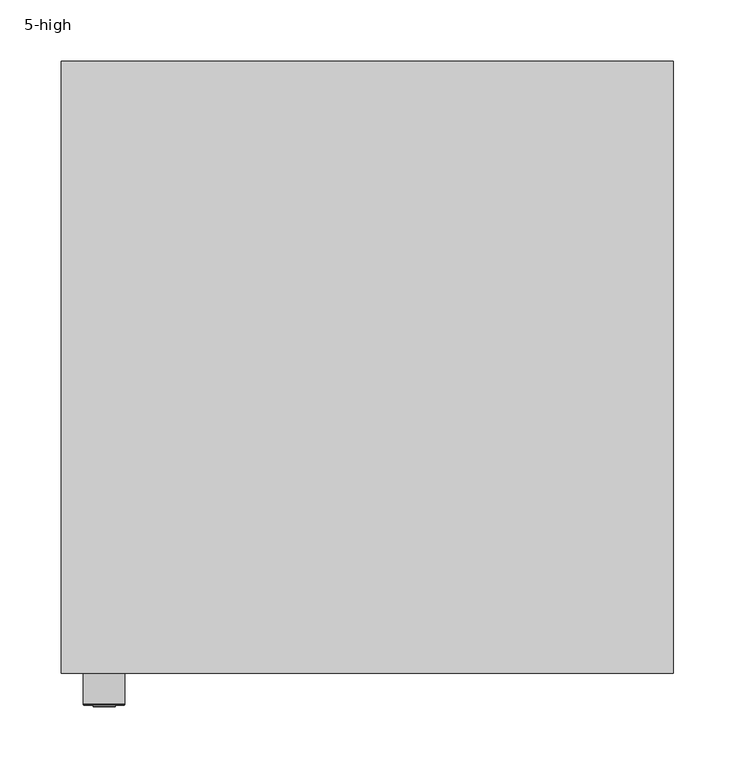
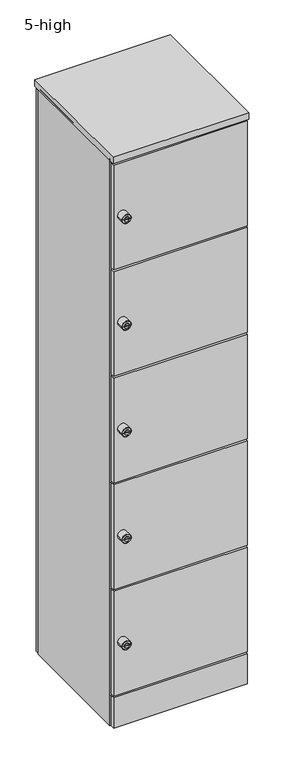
"""IFC4 building model written with IfcOpenShell, lengths in millimetres: furniture geometry, Furniture_Storage_Spacestor_SignatureHotLocker : 5-high."""

from ifc_helpers import new_model, si_unit, point, frame, origin, origin_with_axes, place, context, project, spatial, polyline, circle_curve, ellipse_curve, trimmed, outline, extrude, source, transform, mapped, element, save
from ifc_brep_helpers import plane_surface, cylinder_surface, revolved_surface, advanced_brep


def furniture_5_high_cc2030e8(model_context):
    return source(origin(), model_context, "Body", "SolidModel", [
        extrude(outline(polyline([(489.0, 0.0), (11.0, 0.0), (11.0, 459.0), (489.0, 459.0), (489.0, 0.0)])), frame((0.0, 0.0, 2190.5), z_axis=(0.0, 0.0, 1.0), x_axis=(1.0, 0.0, 0.0)), (0.0, 0.0, 1.0), 22.0),
        extrude(outline(polyline([(489.0, 0.0), (11.0, 0.0), (11.0, 459.0), (489.0, 459.0), (489.0, 0.0)])), frame((0.0, 0.0, 1774.5), z_axis=(0.0, 0.0, 1.0), x_axis=(1.0, 0.0, 0.0)), (0.0, 0.0, 1.0), 22.0),
        extrude(outline(polyline([(489.0, 0.0), (11.0, 0.0), (11.0, 459.0), (489.0, 459.0), (489.0, 0.0)])), frame((0.0, 0.0, 1358.5), z_axis=(0.0, 0.0, 1.0), x_axis=(1.0, 0.0, 0.0)), (0.0, 0.0, 1.0), 22.0),
        extrude(outline(polyline([(489.0, 0.0), (11.0, 0.0), (11.0, 459.0), (489.0, 459.0), (489.0, 0.0)])), frame((0.0, 0.0, 942.5), z_axis=(0.0, 0.0, 1.0), x_axis=(1.0, 0.0, 0.0)), (0.0, 0.0, 1.0), 22.0),
        extrude(outline(polyline([(489.0, 0.0), (11.0, 0.0), (11.0, 459.0), (489.0, 459.0), (489.0, 0.0)])), frame((0.0, 0.0, 526.5), z_axis=(0.0, 0.0, 1.0), x_axis=(1.0, 0.0, 0.0)), (0.0, 0.0, 1.0), 22.0),
        advanced_brep(
        [(18.0, -45.3116344, 1993.5), (52.0, -45.3116344, 1993.5), (52.0, -18.0, 1993.5), (18.0, -18.0, 1993.5), (35.0, -18.0, 1993.5), (26.0252681, -46.3150077, 1993.5), (43.9747319, -46.3150077, 1993.5), (50.9966266, -46.3150077, 1993.5), (19.0033734, -46.3150077, 1993.5), (26.0252681, -47.4703043, 1993.5), (43.9747319, -47.4703043, 1993.5), (30.1754848, -47.4703043, 1993.5), (30.1754848, -47.4703043, 1994.8633438), (39.8245152, -47.4703043, 1994.8633438), (39.8245152, -47.4703043, 1993.5), (39.8245152, -47.4703043, 1992.1366562), (30.1754848, -47.4703043, 1992.1366562), (39.8245152, -27.8604291, 1994.8633438), (30.1754848, -27.8604291, 1994.8633438), (30.1754848, -27.8604291, 1992.1366562), (39.8245152, -27.8604291, 1992.1366562)],
        [
            (0, 1, circle_curve(frame((35.0, -45.3116344, 1993.5), z_axis=(0.0, 1.0, 0.0), x_axis=(1.0, 0.0, 0.0)), 17.0)),
            (1, 2),
            (2, 3, circle_curve(frame((35.0, -18.0, 1993.5), z_axis=(0.0, -1.0, 0.0), x_axis=(1.0, 0.0, 0.0)), 17.0)),
            (3, 0),
            (1, 0, circle_curve(frame((35.0, -45.3116344, 1993.5), z_axis=(0.0, 1.0, 0.0), x_axis=(1.0, 0.0, 0.0)), 17.0)),
            (3, 2, circle_curve(frame((35.0, -18.0, 1993.5), z_axis=(0.0, -1.0, 0.0), x_axis=(1.0, 0.0, 0.0)), 17.0)),
            (2, 4),
            (4, 3),
            (5, 6, circle_curve(frame((35.0, -46.3150077, 1993.5), z_axis=(0.0, 1.0, 0.0), x_axis=(1.0, 0.0, 0.0)), 8.9747319)),
            (6, 7),
            (7, 8, circle_curve(frame((35.0, -46.3150077, 1993.5), z_axis=(0.0, -1.0, 0.0), x_axis=(1.0, 0.0, 0.0)), 15.9966266)),
            (8, 5),
            (6, 5, circle_curve(frame((35.0, -46.3150077, 1993.5), z_axis=(0.0, 1.0, 0.0), x_axis=(1.0, 0.0, 0.0)), 8.9747319)),
            (8, 7, circle_curve(frame((35.0, -46.3150077, 1993.5), z_axis=(0.0, -1.0, 0.0), x_axis=(1.0, 0.0, 0.0)), 15.9966266)),
            (0, 8, circle_curve(frame((19.0033734, -45.3116344, 1993.5), z_axis=(0.0, 0.0, 1.0), x_axis=(-1.0, 0.0, 0.0)), 1.0033734)),
            (7, 1, circle_curve(frame((50.9966266, -45.3116344, 1993.5), z_axis=(0.0, 0.0, 1.0), x_axis=(1.0, 0.0, 0.0)), 1.0033734)),
            (5, 9),
            (9, 10, circle_curve(frame((35.0, -47.4703043, 1993.5), z_axis=(0.0, 1.0, 0.0), x_axis=(1.0, 0.0, 0.0)), 8.9747319)),
            (10, 6),
            (10, 9, circle_curve(frame((35.0, -47.4703043, 1993.5), z_axis=(0.0, 1.0, 0.0), x_axis=(1.0, 0.0, 0.0)), 8.9747319)),
            (9, 11),
            (11, 12),
            (12, 13),
            (13, 14),
            (14, 10),
            (14, 15),
            (15, 16),
            (16, 11),
            (17, 18),
            (18, 19),
            (19, 20),
            (20, 17),
            (17, 13),
            (12, 18),
            (16, 19),
            (15, 20),
        ],
        [
            cylinder_surface(frame((35.0, -2627.0581012, 1993.5), z_axis=(0.0, -1.0, 0.0), x_axis=(1.0, 0.0, 0.0)), 17.0),
            plane_surface(frame((35.0, -18.0, 1993.5), z_axis=(0.0, 1.0, 0.0), x_axis=(1.0, 0.0, 0.0))),
            plane_surface(frame((35.0, -46.3150077, 1993.5), z_axis=(0.0, -1.0, 0.0), x_axis=(1.0, 0.0, 0.0))),
            revolved_surface(trimmed(ellipse_curve(frame((50.9966266, -45.3116344, 1993.5), z_axis=(0.0, 0.0, -1.0), x_axis=(1.0, 0.0, 0.0)), 1.0033734, 1.0033734), [point((52.0, -45.3116344, 1993.5))], [point((50.9966266, -46.3150077, 1993.5))], True, "CARTESIAN"), (35.0, -2627.0581012, 1993.5), (0.0, -1.0, 0.0)),
            cylinder_surface(frame((35.0, -2627.0581012, 1993.5), z_axis=(0.0, -1.0, 0.0), x_axis=(1.0, 0.0, 0.0)), 8.9747319),
            plane_surface(frame((35.0, -47.4703043, 1993.5), z_axis=(0.0, -1.0, 0.0), x_axis=(1.0, 0.0, 0.0))),
            plane_surface(frame((30.5434751, -27.8604291, 1994.8633438), z_axis=(0.0, -1.0, 0.0), x_axis=(1.0, 0.0, 0.0))),
            plane_surface(frame((39.8245152, -49.2046383, 1994.8633438), z_axis=(0.0, 0.0, -1.0), x_axis=(0.0, 1.0, 0.0))),
            plane_surface(frame((30.1754848, -49.2046383, 1994.8633438), z_axis=(1.0, 0.0, 0.0), x_axis=(0.0, 1.0, 0.0))),
            plane_surface(frame((30.1754848, -49.2046383, 1992.1366562), z_axis=(0.0, 0.0, 1.0), x_axis=(0.0, 1.0, 0.0))),
            plane_surface(frame((39.8245152, -49.2046383, 1992.1366562), z_axis=(-1.0, 0.0, 0.0), x_axis=(0.0, 1.0, 0.0))),
        ],
        [
            (0, [[1, 2, 3, 4]]),
            (0, [[-2, 5, -4, 6]]),
            (1, [[-3, 7, 8]]),
            (1, [[-6, -8, -7]]),
            (2, [[9, 10, 11, 12]]),
            (2, [[-10, 13, -12, 14]]),
            (3, [[-1, 15, -11, 16]]),
            (3, [[-5, -16, -14, -15]]),
            (4, [[-9, 17, 18, 19]]),
            (4, [[-13, -19, 20, -17]]),
            (5, [[-18, 21, 22, 23, 24, 25]]),
            (5, [[-20, -25, 26, 27, 28, -21]]),
            (6, [[29, 30, 31, 32]]),
            (7, [[-29, 33, -23, 34]]),
            (8, [[-30, -34, -22, -28, 35]]),
            (9, [[-31, -35, -27, 36]]),
            (10, [[-32, -36, -26, -24, -33]]),
        ],
    ),
        advanced_brep(
        [(18.0, -45.3116344, 1577.5), (52.0, -45.3116344, 1577.5), (52.0, -18.0, 1577.5), (18.0, -18.0, 1577.5), (35.0, -18.0, 1577.5), (26.0252681, -46.3150077, 1577.5), (43.9747319, -46.3150077, 1577.5), (50.9966266, -46.3150077, 1577.5), (19.0033734, -46.3150077, 1577.5), (26.0252681, -47.4703043, 1577.5), (43.9747319, -47.4703043, 1577.5), (30.1754848, -47.4703043, 1577.5), (30.1754848, -47.4703043, 1578.8633438), (39.8245152, -47.4703043, 1578.8633438), (39.8245152, -47.4703043, 1577.5), (39.8245152, -47.4703043, 1576.1366562), (30.1754848, -47.4703043, 1576.1366562), (39.8245152, -27.8604291, 1578.8633438), (30.1754848, -27.8604291, 1578.8633438), (30.1754848, -27.8604291, 1576.1366562), (39.8245152, -27.8604291, 1576.1366562)],
        [
            (0, 1, circle_curve(frame((35.0, -45.3116344, 1577.5), z_axis=(0.0, 1.0, 0.0), x_axis=(1.0, 0.0, 0.0)), 17.0)),
            (1, 2),
            (2, 3, circle_curve(frame((35.0, -18.0, 1577.5), z_axis=(0.0, -1.0, 0.0), x_axis=(1.0, 0.0, 0.0)), 17.0)),
            (3, 0),
            (1, 0, circle_curve(frame((35.0, -45.3116344, 1577.5), z_axis=(0.0, 1.0, 0.0), x_axis=(1.0, 0.0, 0.0)), 17.0)),
            (3, 2, circle_curve(frame((35.0, -18.0, 1577.5), z_axis=(0.0, -1.0, 0.0), x_axis=(1.0, 0.0, 0.0)), 17.0)),
            (2, 4),
            (4, 3),
            (5, 6, circle_curve(frame((35.0, -46.3150077, 1577.5), z_axis=(0.0, 1.0, 0.0), x_axis=(1.0, 0.0, 0.0)), 8.9747319)),
            (6, 7),
            (7, 8, circle_curve(frame((35.0, -46.3150077, 1577.5), z_axis=(0.0, -1.0, 0.0), x_axis=(1.0, 0.0, 0.0)), 15.9966266)),
            (8, 5),
            (6, 5, circle_curve(frame((35.0, -46.3150077, 1577.5), z_axis=(0.0, 1.0, 0.0), x_axis=(1.0, 0.0, 0.0)), 8.9747319)),
            (8, 7, circle_curve(frame((35.0, -46.3150077, 1577.5), z_axis=(0.0, -1.0, 0.0), x_axis=(1.0, 0.0, 0.0)), 15.9966266)),
            (0, 8, circle_curve(frame((19.0033734, -45.3116344, 1577.5), z_axis=(0.0, 0.0, 1.0), x_axis=(-1.0, 0.0, 0.0)), 1.0033734)),
            (7, 1, circle_curve(frame((50.9966266, -45.3116344, 1577.5), z_axis=(0.0, 0.0, 1.0), x_axis=(1.0, 0.0, 0.0)), 1.0033734)),
            (5, 9),
            (9, 10, circle_curve(frame((35.0, -47.4703043, 1577.5), z_axis=(0.0, 1.0, 0.0), x_axis=(1.0, 0.0, 0.0)), 8.9747319)),
            (10, 6),
            (10, 9, circle_curve(frame((35.0, -47.4703043, 1577.5), z_axis=(0.0, 1.0, 0.0), x_axis=(1.0, 0.0, 0.0)), 8.9747319)),
            (9, 11),
            (11, 12),
            (12, 13),
            (13, 14),
            (14, 10),
            (14, 15),
            (15, 16),
            (16, 11),
            (17, 18),
            (18, 19),
            (19, 20),
            (20, 17),
            (17, 13),
            (12, 18),
            (16, 19),
            (15, 20),
        ],
        [
            cylinder_surface(frame((35.0, -2627.0581012, 1577.5), z_axis=(0.0, -1.0, 0.0), x_axis=(1.0, 0.0, 0.0)), 17.0),
            plane_surface(frame((35.0, -18.0, 1577.5), z_axis=(0.0, 1.0, 0.0), x_axis=(1.0, 0.0, 0.0))),
            plane_surface(frame((35.0, -46.3150077, 1577.5), z_axis=(0.0, -1.0, 0.0), x_axis=(1.0, 0.0, 0.0))),
            revolved_surface(trimmed(ellipse_curve(frame((50.9966266, -45.3116344, 1577.5), z_axis=(0.0, 0.0, -1.0), x_axis=(1.0, 0.0, 0.0)), 1.0033734, 1.0033734), [point((52.0, -45.3116344, 1577.5))], [point((50.9966266, -46.3150077, 1577.5))], True, "CARTESIAN"), (35.0, -2627.0581012, 1577.5), (0.0, -1.0, 0.0)),
            cylinder_surface(frame((35.0, -2627.0581012, 1577.5), z_axis=(0.0, -1.0, 0.0), x_axis=(1.0, 0.0, 0.0)), 8.9747319),
            plane_surface(frame((35.0, -47.4703043, 1577.5), z_axis=(0.0, -1.0, 0.0), x_axis=(1.0, 0.0, 0.0))),
            plane_surface(frame((30.5434751, -27.8604291, 1578.8633438), z_axis=(0.0, -1.0, 0.0), x_axis=(1.0, 0.0, 0.0))),
            plane_surface(frame((39.8245152, -49.2046383, 1578.8633438), z_axis=(0.0, 0.0, -1.0), x_axis=(0.0, 1.0, 0.0))),
            plane_surface(frame((30.1754848, -49.2046383, 1578.8633438), z_axis=(1.0, 0.0, 0.0), x_axis=(0.0, 1.0, 0.0))),
            plane_surface(frame((30.1754848, -49.2046383, 1576.1366562), z_axis=(0.0, 0.0, 1.0), x_axis=(0.0, 1.0, 0.0))),
            plane_surface(frame((39.8245152, -49.2046383, 1576.1366562), z_axis=(-1.0, 0.0, 0.0), x_axis=(0.0, 1.0, 0.0))),
        ],
        [
            (0, [[1, 2, 3, 4]]),
            (0, [[-2, 5, -4, 6]]),
            (1, [[-3, 7, 8]]),
            (1, [[-6, -8, -7]]),
            (2, [[9, 10, 11, 12]]),
            (2, [[-10, 13, -12, 14]]),
            (3, [[-1, 15, -11, 16]]),
            (3, [[-5, -16, -14, -15]]),
            (4, [[-9, 17, 18, 19]]),
            (4, [[-13, -19, 20, -17]]),
            (5, [[-18, 21, 22, 23, 24, 25]]),
            (5, [[-20, -25, 26, 27, 28, -21]]),
            (6, [[29, 30, 31, 32]]),
            (7, [[-29, 33, -23, 34]]),
            (8, [[-30, -34, -22, -28, 35]]),
            (9, [[-31, -35, -27, 36]]),
            (10, [[-32, -36, -26, -24, -33]]),
        ],
    ),
        advanced_brep(
        [(18.0, -45.3116344, 1161.5), (52.0, -45.3116344, 1161.5), (52.0, -18.0, 1161.5), (18.0, -18.0, 1161.5), (35.0, -18.0, 1161.5), (26.0252681, -46.3150077, 1161.5), (43.9747319, -46.3150077, 1161.5), (50.9966266, -46.3150077, 1161.5), (19.0033734, -46.3150077, 1161.5), (26.0252681, -47.4703043, 1161.5), (43.9747319, -47.4703043, 1161.5), (30.1754848, -47.4703043, 1161.5), (30.1754848, -47.4703043, 1162.8633438), (39.8245152, -47.4703043, 1162.8633438), (39.8245152, -47.4703043, 1161.5), (39.8245152, -47.4703043, 1160.1366562), (30.1754848, -47.4703043, 1160.1366562), (39.8245152, -27.8604291, 1162.8633438), (30.1754848, -27.8604291, 1162.8633438), (30.1754848, -27.8604291, 1160.1366562), (39.8245152, -27.8604291, 1160.1366562)],
        [
            (0, 1, circle_curve(frame((35.0, -45.3116344, 1161.5), z_axis=(0.0, 1.0, 0.0), x_axis=(1.0, 0.0, 0.0)), 17.0)),
            (1, 2),
            (2, 3, circle_curve(frame((35.0, -18.0, 1161.5), z_axis=(0.0, -1.0, 0.0), x_axis=(1.0, 0.0, 0.0)), 17.0)),
            (3, 0),
            (1, 0, circle_curve(frame((35.0, -45.3116344, 1161.5), z_axis=(0.0, 1.0, 0.0), x_axis=(1.0, 0.0, 0.0)), 17.0)),
            (3, 2, circle_curve(frame((35.0, -18.0, 1161.5), z_axis=(0.0, -1.0, 0.0), x_axis=(1.0, 0.0, 0.0)), 17.0)),
            (2, 4),
            (4, 3),
            (5, 6, circle_curve(frame((35.0, -46.3150077, 1161.5), z_axis=(0.0, 1.0, 0.0), x_axis=(1.0, 0.0, 0.0)), 8.9747319)),
            (6, 7),
            (7, 8, circle_curve(frame((35.0, -46.3150077, 1161.5), z_axis=(0.0, -1.0, 0.0), x_axis=(1.0, 0.0, 0.0)), 15.9966266)),
            (8, 5),
            (6, 5, circle_curve(frame((35.0, -46.3150077, 1161.5), z_axis=(0.0, 1.0, 0.0), x_axis=(1.0, 0.0, 0.0)), 8.9747319)),
            (8, 7, circle_curve(frame((35.0, -46.3150077, 1161.5), z_axis=(0.0, -1.0, 0.0), x_axis=(1.0, 0.0, 0.0)), 15.9966266)),
            (0, 8, circle_curve(frame((19.0033734, -45.3116344, 1161.5), z_axis=(0.0, 0.0, 1.0), x_axis=(-1.0, 0.0, 0.0)), 1.0033734)),
            (7, 1, circle_curve(frame((50.9966266, -45.3116344, 1161.5), z_axis=(0.0, 0.0, 1.0), x_axis=(1.0, 0.0, 0.0)), 1.0033734)),
            (5, 9),
            (9, 10, circle_curve(frame((35.0, -47.4703043, 1161.5), z_axis=(0.0, 1.0, 0.0), x_axis=(1.0, 0.0, 0.0)), 8.9747319)),
            (10, 6),
            (10, 9, circle_curve(frame((35.0, -47.4703043, 1161.5), z_axis=(0.0, 1.0, 0.0), x_axis=(1.0, 0.0, 0.0)), 8.9747319)),
            (9, 11),
            (11, 12),
            (12, 13),
            (13, 14),
            (14, 10),
            (14, 15),
            (15, 16),
            (16, 11),
            (17, 18),
            (18, 19),
            (19, 20),
            (20, 17),
            (17, 13),
            (12, 18),
            (16, 19),
            (15, 20),
        ],
        [
            cylinder_surface(frame((35.0, -2627.0581012, 1161.5), z_axis=(0.0, -1.0, 0.0), x_axis=(1.0, 0.0, 0.0)), 17.0),
            plane_surface(frame((35.0, -18.0, 1161.5), z_axis=(0.0, 1.0, 0.0), x_axis=(1.0, 0.0, 0.0))),
            plane_surface(frame((35.0, -46.3150077, 1161.5), z_axis=(0.0, -1.0, 0.0), x_axis=(1.0, 0.0, 0.0))),
            revolved_surface(trimmed(ellipse_curve(frame((50.9966266, -45.3116344, 1161.5), z_axis=(0.0, 0.0, -1.0), x_axis=(1.0, 0.0, 0.0)), 1.0033734, 1.0033734), [point((52.0, -45.3116344, 1161.5))], [point((50.9966266, -46.3150077, 1161.5))], True, "CARTESIAN"), (35.0, -2627.0581012, 1161.5), (0.0, -1.0, 0.0)),
            cylinder_surface(frame((35.0, -2627.0581012, 1161.5), z_axis=(0.0, -1.0, 0.0), x_axis=(1.0, 0.0, 0.0)), 8.9747319),
            plane_surface(frame((35.0, -47.4703043, 1161.5), z_axis=(0.0, -1.0, 0.0), x_axis=(1.0, 0.0, 0.0))),
            plane_surface(frame((30.5434751, -27.8604291, 1162.8633438), z_axis=(0.0, -1.0, 0.0), x_axis=(1.0, 0.0, 0.0))),
            plane_surface(frame((39.8245152, -49.2046383, 1162.8633438), z_axis=(0.0, 0.0, -1.0), x_axis=(0.0, 1.0, 0.0))),
            plane_surface(frame((30.1754848, -49.2046383, 1162.8633438), z_axis=(1.0, 0.0, 0.0), x_axis=(0.0, 1.0, 0.0))),
            plane_surface(frame((30.1754848, -49.2046383, 1160.1366562), z_axis=(0.0, 0.0, 1.0), x_axis=(0.0, 1.0, 0.0))),
            plane_surface(frame((39.8245152, -49.2046383, 1160.1366562), z_axis=(-1.0, 0.0, 0.0), x_axis=(0.0, 1.0, 0.0))),
        ],
        [
            (0, [[1, 2, 3, 4]]),
            (0, [[-2, 5, -4, 6]]),
            (1, [[-3, 7, 8]]),
            (1, [[-6, -8, -7]]),
            (2, [[9, 10, 11, 12]]),
            (2, [[-10, 13, -12, 14]]),
            (3, [[-1, 15, -11, 16]]),
            (3, [[-5, -16, -14, -15]]),
            (4, [[-9, 17, 18, 19]]),
            (4, [[-13, -19, 20, -17]]),
            (5, [[-18, 21, 22, 23, 24, 25]]),
            (5, [[-20, -25, 26, 27, 28, -21]]),
            (6, [[29, 30, 31, 32]]),
            (7, [[-29, 33, -23, 34]]),
            (8, [[-30, -34, -22, -28, 35]]),
            (9, [[-31, -35, -27, 36]]),
            (10, [[-32, -36, -26, -24, -33]]),
        ],
    ),
        advanced_brep(
        [(18.0, -45.3116344, 745.5), (52.0, -45.3116344, 745.5), (52.0, -18.0, 745.5), (18.0, -18.0, 745.5), (35.0, -18.0, 745.5), (26.0252681, -46.3150077, 745.5), (43.9747319, -46.3150077, 745.5), (50.9966266, -46.3150077, 745.5), (19.0033734, -46.3150077, 745.5), (26.0252681, -47.4703043, 745.5), (43.9747319, -47.4703043, 745.5), (30.1754848, -47.4703043, 745.5), (30.1754848, -47.4703043, 746.8633438), (39.8245152, -47.4703043, 746.8633438), (39.8245152, -47.4703043, 745.5), (39.8245152, -47.4703043, 744.1366562), (30.1754848, -47.4703043, 744.1366562), (39.8245152, -27.8604291, 746.8633438), (30.1754848, -27.8604291, 746.8633438), (30.1754848, -27.8604291, 744.1366562), (39.8245152, -27.8604291, 744.1366562)],
        [
            (0, 1, circle_curve(frame((35.0, -45.3116344, 745.5), z_axis=(0.0, 1.0, 0.0), x_axis=(1.0, 0.0, 0.0)), 17.0)),
            (1, 2),
            (2, 3, circle_curve(frame((35.0, -18.0, 745.5), z_axis=(0.0, -1.0, 0.0), x_axis=(1.0, 0.0, 0.0)), 17.0)),
            (3, 0),
            (1, 0, circle_curve(frame((35.0, -45.3116344, 745.5), z_axis=(0.0, 1.0, 0.0), x_axis=(1.0, 0.0, 0.0)), 17.0)),
            (3, 2, circle_curve(frame((35.0, -18.0, 745.5), z_axis=(0.0, -1.0, 0.0), x_axis=(1.0, 0.0, 0.0)), 17.0)),
            (2, 4),
            (4, 3),
            (5, 6, circle_curve(frame((35.0, -46.3150077, 745.5), z_axis=(0.0, 1.0, 0.0), x_axis=(1.0, 0.0, 0.0)), 8.9747319)),
            (6, 7),
            (7, 8, circle_curve(frame((35.0, -46.3150077, 745.5), z_axis=(0.0, -1.0, 0.0), x_axis=(1.0, 0.0, 0.0)), 15.9966266)),
            (8, 5),
            (6, 5, circle_curve(frame((35.0, -46.3150077, 745.5), z_axis=(0.0, 1.0, 0.0), x_axis=(1.0, 0.0, 0.0)), 8.9747319)),
            (8, 7, circle_curve(frame((35.0, -46.3150077, 745.5), z_axis=(0.0, -1.0, 0.0), x_axis=(1.0, 0.0, 0.0)), 15.9966266)),
            (0, 8, circle_curve(frame((19.0033734, -45.3116344, 745.5), z_axis=(0.0, 0.0, 1.0), x_axis=(-1.0, 0.0, 0.0)), 1.0033734)),
            (7, 1, circle_curve(frame((50.9966266, -45.3116344, 745.5), z_axis=(0.0, 0.0, 1.0), x_axis=(1.0, 0.0, 0.0)), 1.0033734)),
            (5, 9),
            (9, 10, circle_curve(frame((35.0, -47.4703043, 745.5), z_axis=(0.0, 1.0, 0.0), x_axis=(1.0, 0.0, 0.0)), 8.9747319)),
            (10, 6),
            (10, 9, circle_curve(frame((35.0, -47.4703043, 745.5), z_axis=(0.0, 1.0, 0.0), x_axis=(1.0, 0.0, 0.0)), 8.9747319)),
            (9, 11),
            (11, 12),
            (12, 13),
            (13, 14),
            (14, 10),
            (14, 15),
            (15, 16),
            (16, 11),
            (17, 18),
            (18, 19),
            (19, 20),
            (20, 17),
            (17, 13),
            (12, 18),
            (16, 19),
            (15, 20),
        ],
        [
            cylinder_surface(frame((35.0, -2627.0581012, 745.5), z_axis=(0.0, -1.0, 0.0), x_axis=(1.0, 0.0, 0.0)), 17.0),
            plane_surface(frame((35.0, -18.0, 745.5), z_axis=(0.0, 1.0, 0.0), x_axis=(1.0, 0.0, 0.0))),
            plane_surface(frame((35.0, -46.3150077, 745.5), z_axis=(0.0, -1.0, 0.0), x_axis=(1.0, 0.0, 0.0))),
            revolved_surface(trimmed(ellipse_curve(frame((50.9966266, -45.3116344, 745.5), z_axis=(0.0, 0.0, -1.0), x_axis=(1.0, 0.0, 0.0)), 1.0033734, 1.0033734), [point((52.0, -45.3116344, 745.5))], [point((50.9966266, -46.3150077, 745.5))], True, "CARTESIAN"), (35.0, -2627.0581012, 745.5), (0.0, -1.0, 0.0)),
            cylinder_surface(frame((35.0, -2627.0581012, 745.5), z_axis=(0.0, -1.0, 0.0), x_axis=(1.0, 0.0, 0.0)), 8.9747319),
            plane_surface(frame((35.0, -47.4703043, 745.5), z_axis=(0.0, -1.0, 0.0), x_axis=(1.0, 0.0, 0.0))),
            plane_surface(frame((30.5434751, -27.8604291, 746.8633438), z_axis=(0.0, -1.0, 0.0), x_axis=(1.0, 0.0, 0.0))),
            plane_surface(frame((39.8245152, -49.2046383, 746.8633438), z_axis=(0.0, 0.0, -1.0), x_axis=(0.0, 1.0, 0.0))),
            plane_surface(frame((30.1754848, -49.2046383, 746.8633438), z_axis=(1.0, 0.0, 0.0), x_axis=(0.0, 1.0, 0.0))),
            plane_surface(frame((30.1754848, -49.2046383, 744.1366562), z_axis=(0.0, 0.0, 1.0), x_axis=(0.0, 1.0, 0.0))),
            plane_surface(frame((39.8245152, -49.2046383, 744.1366562), z_axis=(-1.0, 0.0, 0.0), x_axis=(0.0, 1.0, 0.0))),
        ],
        [
            (0, [[1, 2, 3, 4]]),
            (0, [[-2, 5, -4, 6]]),
            (1, [[-3, 7, 8]]),
            (1, [[-6, -8, -7]]),
            (2, [[9, 10, 11, 12]]),
            (2, [[-10, 13, -12, 14]]),
            (3, [[-1, 15, -11, 16]]),
            (3, [[-5, -16, -14, -15]]),
            (4, [[-9, 17, 18, 19]]),
            (4, [[-13, -19, 20, -17]]),
            (5, [[-18, 21, 22, 23, 24, 25]]),
            (5, [[-20, -25, 26, 27, 28, -21]]),
            (6, [[29, 30, 31, 32]]),
            (7, [[-29, 33, -23, 34]]),
            (8, [[-30, -34, -22, -28, 35]]),
            (9, [[-31, -35, -27, 36]]),
            (10, [[-32, -36, -26, -24, -33]]),
        ],
    ),
        advanced_brep(
        [(18.0, -45.3116344, 329.5), (52.0, -45.3116344, 329.5), (52.0, -18.0, 329.5), (18.0, -18.0, 329.5), (35.0, -18.0, 329.5), (26.0252681, -46.3150077, 329.5), (43.9747319, -46.3150077, 329.5), (50.9966266, -46.3150077, 329.5), (19.0033734, -46.3150077, 329.5), (26.0252681, -47.4703043, 329.5), (43.9747319, -47.4703043, 329.5), (30.1754848, -47.4703043, 329.5), (30.1754848, -47.4703043, 330.8633438), (39.8245152, -47.4703043, 330.8633438), (39.8245152, -47.4703043, 329.5), (39.8245152, -47.4703043, 328.1366562), (30.1754848, -47.4703043, 328.1366562), (39.8245152, -27.8604291, 330.8633438), (30.1754848, -27.8604291, 330.8633438), (30.1754848, -27.8604291, 328.1366562), (39.8245152, -27.8604291, 328.1366562)],
        [
            (0, 1, circle_curve(frame((35.0, -45.3116344, 329.5), z_axis=(0.0, 1.0, 0.0), x_axis=(1.0, 0.0, 0.0)), 17.0)),
            (1, 2),
            (2, 3, circle_curve(frame((35.0, -18.0, 329.5), z_axis=(0.0, -1.0, 0.0), x_axis=(1.0, 0.0, 0.0)), 17.0)),
            (3, 0),
            (1, 0, circle_curve(frame((35.0, -45.3116344, 329.5), z_axis=(0.0, 1.0, 0.0), x_axis=(1.0, 0.0, 0.0)), 17.0)),
            (3, 2, circle_curve(frame((35.0, -18.0, 329.5), z_axis=(0.0, -1.0, 0.0), x_axis=(1.0, 0.0, 0.0)), 17.0)),
            (2, 4),
            (4, 3),
            (5, 6, circle_curve(frame((35.0, -46.3150077, 329.5), z_axis=(0.0, 1.0, 0.0), x_axis=(1.0, 0.0, 0.0)), 8.9747319)),
            (6, 7),
            (7, 8, circle_curve(frame((35.0, -46.3150077, 329.5), z_axis=(0.0, -1.0, 0.0), x_axis=(1.0, 0.0, 0.0)), 15.9966266)),
            (8, 5),
            (6, 5, circle_curve(frame((35.0, -46.3150077, 329.5), z_axis=(0.0, 1.0, 0.0), x_axis=(1.0, 0.0, 0.0)), 8.9747319)),
            (8, 7, circle_curve(frame((35.0, -46.3150077, 329.5), z_axis=(0.0, -1.0, 0.0), x_axis=(1.0, 0.0, 0.0)), 15.9966266)),
            (0, 8, circle_curve(frame((19.0033734, -45.3116344, 329.5), z_axis=(0.0, 0.0, 1.0), x_axis=(-1.0, 0.0, 0.0)), 1.0033734)),
            (7, 1, circle_curve(frame((50.9966266, -45.3116344, 329.5), z_axis=(0.0, 0.0, 1.0), x_axis=(1.0, 0.0, 0.0)), 1.0033734)),
            (5, 9),
            (9, 10, circle_curve(frame((35.0, -47.4703043, 329.5), z_axis=(0.0, 1.0, 0.0), x_axis=(1.0, 0.0, 0.0)), 8.9747319)),
            (10, 6),
            (10, 9, circle_curve(frame((35.0, -47.4703043, 329.5), z_axis=(0.0, 1.0, 0.0), x_axis=(1.0, 0.0, 0.0)), 8.9747319)),
            (9, 11),
            (11, 12),
            (12, 13),
            (13, 14),
            (14, 10),
            (14, 15),
            (15, 16),
            (16, 11),
            (17, 18),
            (18, 19),
            (19, 20),
            (20, 17),
            (17, 13),
            (12, 18),
            (16, 19),
            (15, 20),
        ],
        [
            cylinder_surface(frame((35.0, -2627.0581012, 329.5), z_axis=(0.0, -1.0, 0.0), x_axis=(1.0, 0.0, 0.0)), 17.0),
            plane_surface(frame((35.0, -18.0, 329.5), z_axis=(0.0, 1.0, 0.0), x_axis=(1.0, 0.0, 0.0))),
            plane_surface(frame((35.0, -46.3150077, 329.5), z_axis=(0.0, -1.0, 0.0), x_axis=(1.0, 0.0, 0.0))),
            revolved_surface(trimmed(ellipse_curve(frame((50.9966266, -45.3116344, 329.5), z_axis=(0.0, 0.0, -1.0), x_axis=(1.0, 0.0, 0.0)), 1.0033734, 1.0033734), [point((52.0, -45.3116344, 329.5))], [point((50.9966266, -46.3150077, 329.5))], True, "CARTESIAN"), (35.0, -2627.0581012, 329.5), (0.0, -1.0, 0.0)),
            cylinder_surface(frame((35.0, -2627.0581012, 329.5), z_axis=(0.0, -1.0, 0.0), x_axis=(1.0, 0.0, 0.0)), 8.9747319),
            plane_surface(frame((35.0, -47.4703043, 329.5), z_axis=(0.0, -1.0, 0.0), x_axis=(1.0, 0.0, 0.0))),
            plane_surface(frame((30.5434751, -27.8604291, 330.8633438), z_axis=(0.0, -1.0, 0.0), x_axis=(1.0, 0.0, 0.0))),
            plane_surface(frame((39.8245152, -49.2046383, 330.8633438), z_axis=(0.0, 0.0, -1.0), x_axis=(0.0, 1.0, 0.0))),
            plane_surface(frame((30.1754848, -49.2046383, 330.8633438), z_axis=(1.0, 0.0, 0.0), x_axis=(0.0, 1.0, 0.0))),
            plane_surface(frame((30.1754848, -49.2046383, 328.1366562), z_axis=(0.0, 0.0, 1.0), x_axis=(0.0, 1.0, 0.0))),
            plane_surface(frame((39.8245152, -49.2046383, 328.1366562), z_axis=(-1.0, 0.0, 0.0), x_axis=(0.0, 1.0, 0.0))),
        ],
        [
            (0, [[1, 2, 3, 4]]),
            (0, [[-2, 5, -4, 6]]),
            (1, [[-3, 7, 8]]),
            (1, [[-6, -8, -7]]),
            (2, [[9, 10, 11, 12]]),
            (2, [[-10, 13, -12, 14]]),
            (3, [[-1, 15, -11, 16]]),
            (3, [[-5, -16, -14, -15]]),
            (4, [[-9, 17, 18, 19]]),
            (4, [[-13, -19, 20, -17]]),
            (5, [[-18, 21, 22, 23, 24, 25]]),
            (5, [[-20, -25, 26, 27, 28, -21]]),
            (6, [[29, 30, 31, 32]]),
            (7, [[-29, 33, -23, 34]]),
            (8, [[-30, -34, -22, -28, 35]]),
            (9, [[-31, -35, -27, 36]]),
            (10, [[-32, -36, -26, -24, -33]]),
        ],
    ),
        extrude(outline(polyline([(496.5, -18.0), (3.5, -18.0), (3.5, 0.0), (496.5, 0.0), (496.5, -18.0)])), frame((0.0, 0.0, 1789.0), z_axis=(0.0, 0.0, 1.0), x_axis=(1.0, 0.0, 0.0)), (0.0, 0.0, 1.0), 409.0),
        extrude(outline(polyline([(496.5, -18.0), (3.5, -18.0), (3.5, 0.0), (496.5, 0.0), (496.5, -18.0)])), frame((0.0, 0.0, 1373.0), z_axis=(0.0, 0.0, 1.0), x_axis=(1.0, 0.0, 0.0)), (0.0, 0.0, 1.0), 409.0),
        extrude(outline(polyline([(496.5, -18.0), (3.5, -18.0), (3.5, 0.0), (496.5, 0.0), (496.5, -18.0)])), frame((0.0, 0.0, 957.0), z_axis=(0.0, 0.0, 1.0), x_axis=(1.0, 0.0, 0.0)), (0.0, 0.0, 1.0), 409.0),
        extrude(outline(polyline([(496.5, -18.0), (3.5, -18.0), (3.5, 0.0), (496.5, 0.0), (496.5, -18.0)])), frame((0.0, 0.0, 541.0), z_axis=(0.0, 0.0, 1.0), x_axis=(1.0, 0.0, 0.0)), (0.0, 0.0, 1.0), 409.0),
        extrude(outline(polyline([(496.5, -18.0), (3.5, -18.0), (3.5, 0.0), (496.5, 0.0), (496.5, -18.0)])), frame((0.0, 0.0, 125.0), z_axis=(0.0, 0.0, 1.0), x_axis=(1.0, 0.0, 0.0)), (0.0, 0.0, 1.0), 409.0),
        extrude(outline(polyline([(489.0, 0.0), (11.0, 0.0), (11.0, 459.0), (489.0, 459.0), (489.0, 0.0)])), frame((0.0, 0.0, 110.5), z_axis=(0.0, 0.0, 1.0), x_axis=(1.0, 0.0, 0.0)), (0.0, 0.0, 1.0), 22.0),
        extrude(outline(polyline([(496.5, 459.0), (3.5, 459.0), (3.5, 477.0), (496.5, 477.0), (496.5, 459.0)])), origin_with_axes(), (0.0, 0.0, 1.0), 2198.0),
        extrude(outline(polyline([(496.5, -18.0), (3.5, -18.0), (3.5, 0.0), (496.5, 0.0), (496.5, -18.0)])), origin_with_axes(), (0.0, 0.0, 1.0), 118.0),
        extrude(outline(polyline([(500.0, -20.5), (0.0, -20.5), (0.0, 479.5), (500.0, 479.5), (500.0, -20.5)])), frame((0.0, 0.0, 2205.0), z_axis=(0.0, 0.0, 1.0), x_axis=(1.0, 0.0, 0.0)), (0.0, 0.0, 1.0), 25.5),
        extrude(outline(polyline([(500.0, 0.0), (489.0, 0.0), (489.0, 459.0), (500.0, 459.0), (500.0, 0.0)])), origin_with_axes(), (0.0, 0.0, 1.0), 2212.5),
        extrude(outline(polyline([(11.0, 0.0), (0.0, 0.0), (0.0, 459.0), (11.0, 459.0), (11.0, 0.0)])), origin_with_axes(), (0.0, 0.0, 1.0), 2212.5),
    ])


if __name__ == "__main__":
    model = new_model("IFC4")
    model_context = context("Model", 3, world=origin())
    ifc_project = project(units=[si_unit("LENGTHUNIT", "METRE", prefix="MILLI")], contexts=[model_context])
    site = spatial("IfcSite", under=ifc_project)
    building = spatial("IfcBuilding", under=site)
    placement = place(None, origin())
    furniture_5_high_shape = furniture_5_high_cc2030e8(model_context)
    element("IfcFurniture", 1, ObjectType="Furniture_Storage_Spacestor_SignatureHotLocker : 5-high", at=placement, inside=building, context=model_context, shape_type="MappedRepresentation", body=[
        mapped(furniture_5_high_shape, transform((0.0, 0.0, 0.0), x_axis=(1.0, 0.0, 0.0), y_axis=(0.0, 1.0, 0.0), z_axis=(0.0, 0.0, 1.0))),
    ])
    save(model, "model.ifc")
